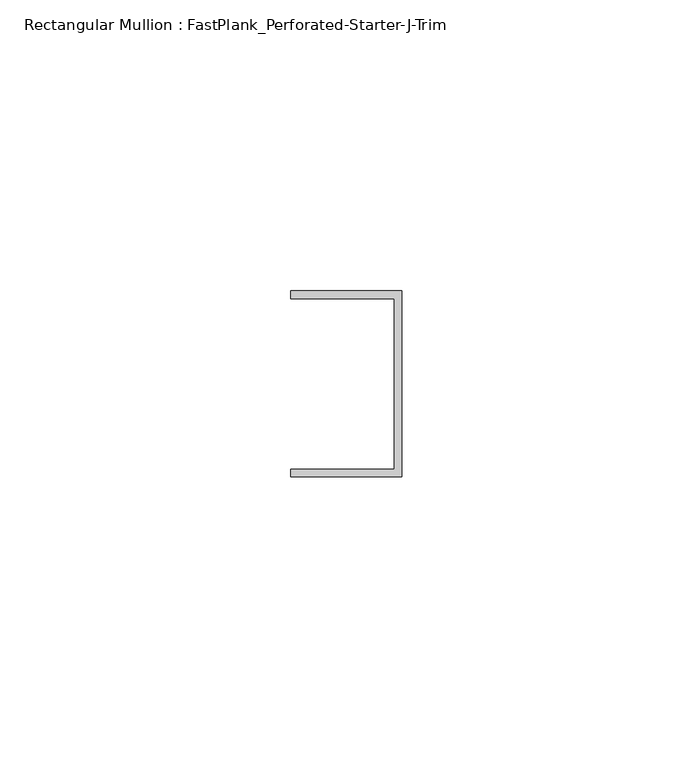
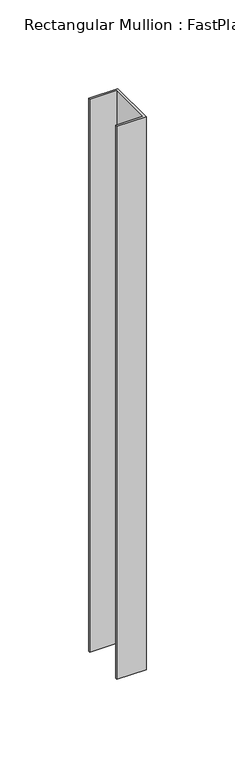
"""IFC4 building model written with IfcOpenShell, lengths in millimetres: member geometry, Rectangular Mullion : FastPlank_Perforated-Starter-J-Trim."""

from ifc_helpers import new_model, si_unit, frame, origin, place, context, project, spatial, polyline, outline, extrude, source, transform, mapped, element, save


def rectangular_mullion_fastplank_perforated_starter_j_trim_e011ec98(model_context):
    return source(origin(), model_context, "Body", "SweptSolid", [
        extrude(outline(polyline([(0.0, -10.2620691), (-19.05, -10.2620691), (-19.05, -8.9620717), (-1.3000189, -8.9620717), (-1.3000189, 20.3412717), (-19.05, 20.3412717), (-19.05, 21.6412691), (0.0, 21.6412691), (0.0, -10.2620691)])), frame((0.0, 0.0, -381.0), z_axis=(0.0, 0.0, 1.0), x_axis=(1.0, 0.0, 0.0)), (0.0, 0.0, 1.0), 381.0),
    ])


if __name__ == "__main__":
    model = new_model("IFC4")
    model_context = context("Model", 3, world=origin())
    ifc_project = project(units=[si_unit("LENGTHUNIT", "METRE", prefix="MILLI")], contexts=[model_context])
    site = spatial("IfcSite", under=ifc_project)
    building = spatial("IfcBuilding", under=site)
    placement = place(None, origin())
    rectangular_mullion_fastplank_perforated_starter_j_trim_shape = rectangular_mullion_fastplank_perforated_starter_j_trim_e011ec98(model_context)
    element("IfcMember", 1, ObjectType="Rectangular Mullion : FastPlank_Perforated-Starter-J-Trim", at=placement, inside=building, context=model_context, shape_type="MappedRepresentation", body=[
        mapped(rectangular_mullion_fastplank_perforated_starter_j_trim_shape, transform((0.0, 0.0, 0.0), x_axis=(1.0, 0.0, 0.0), y_axis=(0.0, 1.0, 0.0), z_axis=(0.0, 0.0, 1.0))),
    ])
    save(model, "model.ifc")
